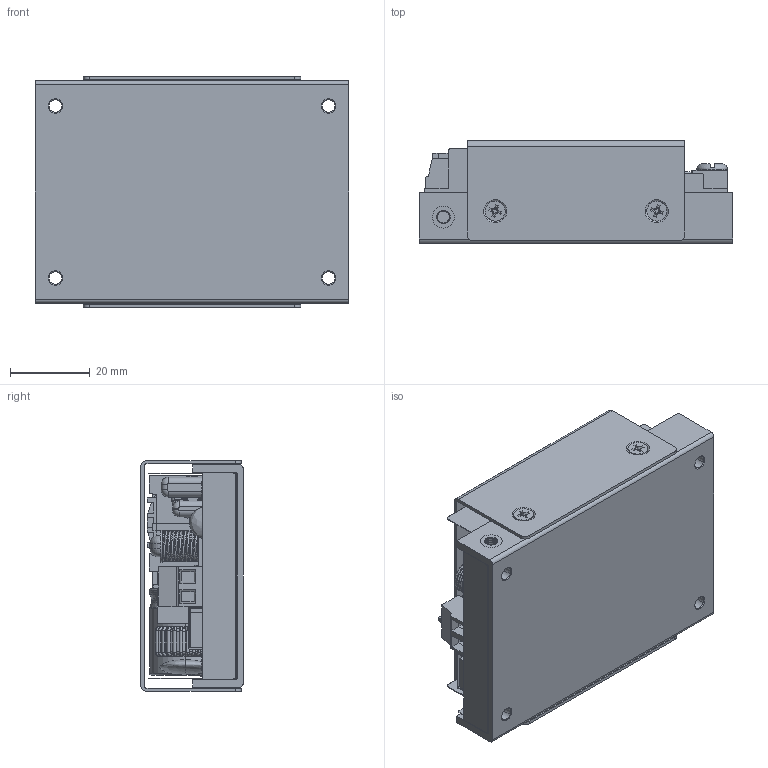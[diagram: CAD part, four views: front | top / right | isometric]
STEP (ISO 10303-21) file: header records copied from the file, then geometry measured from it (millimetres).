
FILE_DESCRIPTION (( 'STEP AP214' ), '1' );
FILE_NAME ('CCR200.STEP', '2024-07-26T01:41:26', ( 'cincon' ), ( '' ), 'SwSTEP 2.0', 'SolidWorks 2020', '' );
FILE_SCHEMA (( 'AUTOMOTIVE_DESIGN' ));
Length unit declared in the file: millimetre
Products named in the file (1): CCR200
Bounding box: 78.6 x 25.7 x 57.9 mm (x, y, z)
Surface area: 44482.2 mm2 (no closed solid volume)
Topology: 0 solids, 33 shells, 2547 faces, 7404 edges, 4821 vertices
Faces by surface type: cylinder 948, plane 869, torus 520, bspline 122, cone 65, sphere 23
Entity records: 133379 total; most frequent: CARTESIAN_POINT 37771, ORIENTED_EDGE 14784, DIRECTION 14306, EDGE_CURVE 7396, AXIS2_PLACEMENT_3D 5698, VERTEX_POINT 4821, CIRCLE 3272, LINE 2910
